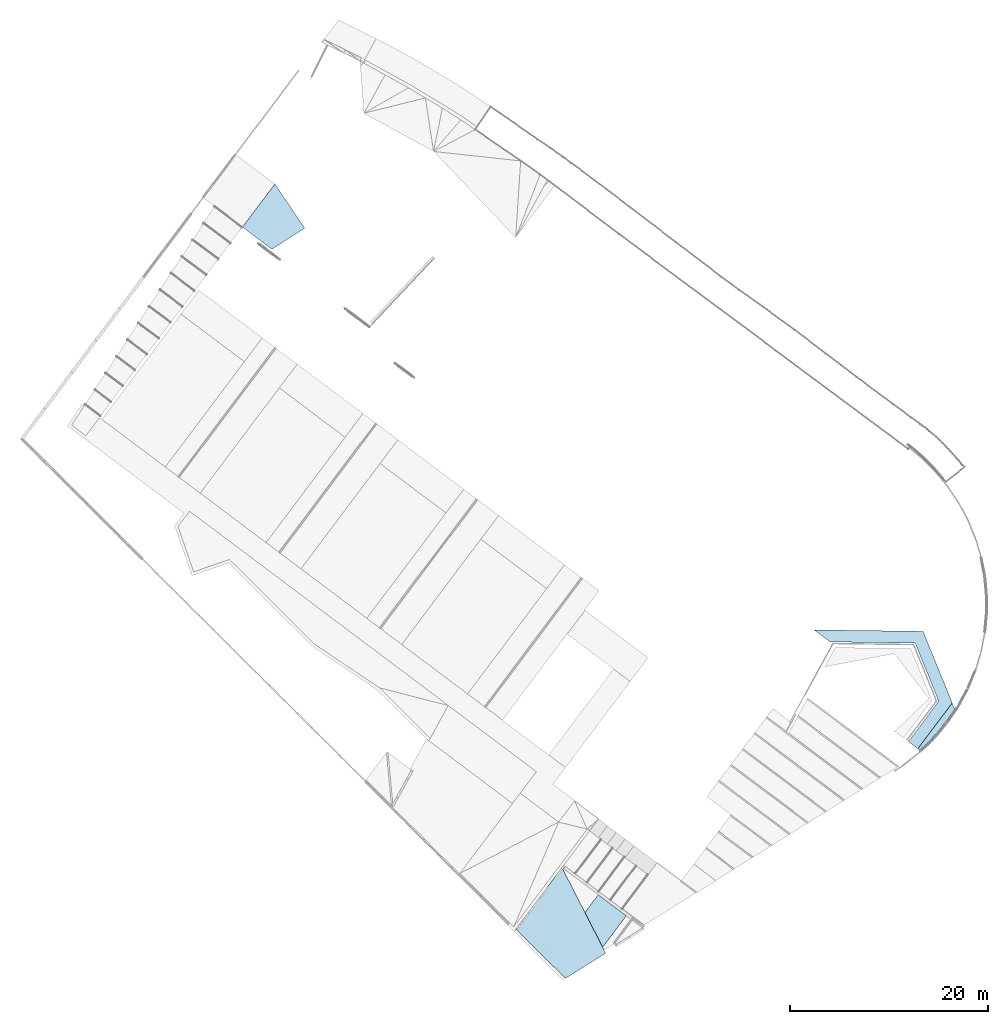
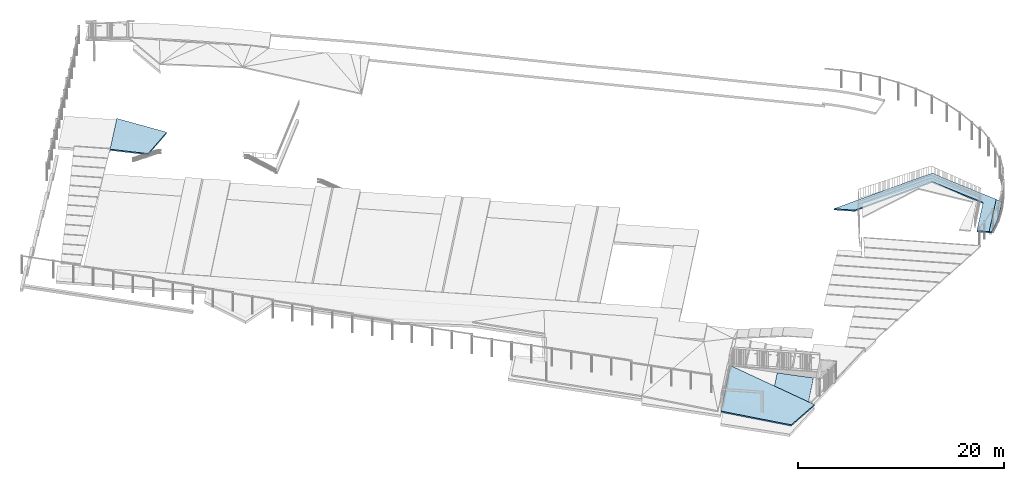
# One storey, part 30 of 33: 5 slabs.
"""IFC2X3 building model written with IfcOpenShell, lengths in metres."""

from ifc_helpers import new_model, entity, si_unit, converted_unit, derived_unit, direction, frame, origin, place, context, subcontext, project, spatial, faceted_brep, material, layer, layer_set, type_object, element, save


model = new_model("IFC2X3")

# Units and contexts
model_context = context("Model", 3, precision=1e-05, world=origin(), true_north=direction((6.123031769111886e-17, 1.0)))
body_context = subcontext(model_context, "Body", "Model", "MODEL_VIEW")
ifc_project = project(units=[si_unit("LENGTHUNIT", "METRE"), si_unit("AREAUNIT", "SQUARE_METRE"), si_unit("VOLUMEUNIT", "CUBIC_METRE"), converted_unit("PLANEANGLEUNIT", "DEGREE", entity("IfcRatioMeasure", 0.017453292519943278), si_unit("PLANEANGLEUNIT", "RADIAN"), dimensions=[0, 0, 0, 0, 0, 0, 0]), si_unit("MASSUNIT", "GRAM", prefix="KILO"), derived_unit("MASSDENSITYUNIT", [(si_unit("MASSUNIT", "GRAM", prefix="KILO"), 1), (si_unit("LENGTHUNIT", "METRE"), -3)]), derived_unit("IONCONCENTRATIONUNIT", [(si_unit("MASSUNIT", "GRAM", prefix="KILO"), 1), (si_unit("LENGTHUNIT", "METRE"), -3)]), derived_unit("MOMENTOFINERTIAUNIT", [(si_unit("LENGTHUNIT", "METRE"), 4)]), si_unit("TIMEUNIT", "SECOND"), si_unit("FREQUENCYUNIT", "HERTZ"), si_unit("THERMODYNAMICTEMPERATUREUNIT", "DEGREE_CELSIUS"), derived_unit("THERMALTRANSMITTANCEUNIT", [(si_unit("MASSUNIT", "GRAM", prefix="KILO"), 1), (si_unit("THERMODYNAMICTEMPERATUREUNIT", "KELVIN"), -1), (si_unit("TIMEUNIT", "SECOND"), -3)]), derived_unit("THERMALCONDUCTANCEUNIT", [(si_unit("MASSUNIT", "GRAM", prefix="KILO"), 1), (si_unit("THERMODYNAMICTEMPERATUREUNIT", "KELVIN"), -1), (si_unit("TIMEUNIT", "SECOND"), -3), (si_unit("LENGTHUNIT", "METRE"), 1)]), derived_unit("VOLUMETRICFLOWRATEUNIT", [(si_unit("LENGTHUNIT", "METRE"), 3), (si_unit("TIMEUNIT", "SECOND"), -1)]), derived_unit("MASSFLOWRATEUNIT", [(si_unit("MASSUNIT", "GRAM", prefix="KILO"), 1), (si_unit("TIMEUNIT", "SECOND"), -1)]), derived_unit("ROTATIONALFREQUENCYUNIT", [(si_unit("TIMEUNIT", "SECOND"), -1)]), si_unit("ELECTRICCURRENTUNIT", "AMPERE"), si_unit("ELECTRICVOLTAGEUNIT", "VOLT"), si_unit("POWERUNIT", "WATT"), si_unit("FORCEUNIT", "NEWTON", prefix="KILO"), si_unit("ILLUMINANCEUNIT", "LUX"), si_unit("LUMINOUSFLUXUNIT", "LUMEN"), si_unit("LUMINOUSINTENSITYUNIT", "CANDELA"), derived_unit("USERDEFINED", [(si_unit("MASSUNIT", "GRAM", prefix="KILO"), -1), (si_unit("LENGTHUNIT", "METRE"), -2), (si_unit("TIMEUNIT", "SECOND"), 3), (si_unit("LUMINOUSFLUXUNIT", "LUMEN"), 1)]), derived_unit("USERDEFINED", [(si_unit("MASSUNIT", "GRAM", prefix="KILO"), 1), (si_unit("TIMEUNIT", "SECOND"), -3), (si_unit("LENGTHUNIT", "METRE"), 3), (si_unit("ELECTRICCURRENTUNIT", "AMPERE"), -2)]), derived_unit("SOUNDPOWERUNIT", [(si_unit("MASSUNIT", "GRAM", prefix="KILO"), 1), (si_unit("TIMEUNIT", "SECOND"), -3), (si_unit("LENGTHUNIT", "METRE"), 2)]), derived_unit("SOUNDPRESSUREUNIT", [(si_unit("MASSUNIT", "GRAM", prefix="KILO"), 1), (si_unit("LENGTHUNIT", "METRE"), -1), (si_unit("TIMEUNIT", "SECOND"), -2)]), derived_unit("LINEARVELOCITYUNIT", [(si_unit("LENGTHUNIT", "METRE"), 1), (si_unit("TIMEUNIT", "SECOND"), -1)]), si_unit("PRESSUREUNIT", "PASCAL"), derived_unit("USERDEFINED", [(si_unit("MASSUNIT", "GRAM", prefix="KILO"), 1), (si_unit("LENGTHUNIT", "METRE"), -2), (si_unit("TIMEUNIT", "SECOND"), -2)]), derived_unit("LINEARFORCEUNIT", [(si_unit("MASSUNIT", "GRAM", prefix="KILO"), 1), (si_unit("TIMEUNIT", "SECOND"), -2)]), derived_unit("PLANARFORCEUNIT", [(si_unit("MASSUNIT", "GRAM", prefix="KILO"), 1), (si_unit("LENGTHUNIT", "METRE"), -1), (si_unit("TIMEUNIT", "SECOND"), -2)]), derived_unit("SPECIFICHEATCAPACITYUNIT", [(si_unit("THERMODYNAMICTEMPERATUREUNIT", "KELVIN"), -1), (si_unit("LENGTHUNIT", "METRE"), 2), (si_unit("TIMEUNIT", "SECOND"), -2)]), derived_unit("HEATINGVALUEUNIT", [(si_unit("LENGTHUNIT", "METRE"), 2), (si_unit("TIMEUNIT", "SECOND"), -2)]), derived_unit("VAPORPERMEABILITYUNIT", [(si_unit("LENGTHUNIT", "METRE"), -1), (si_unit("TIMEUNIT", "SECOND"), 1)]), derived_unit("DYNAMICVISCOSITYUNIT", [(si_unit("MASSUNIT", "GRAM", prefix="KILO"), 1), (si_unit("TIMEUNIT", "SECOND"), -1), (si_unit("LENGTHUNIT", "METRE"), -1)]), derived_unit("THERMALEXPANSIONCOEFFICIENTUNIT", [(si_unit("THERMODYNAMICTEMPERATUREUNIT", "KELVIN"), -1)]), derived_unit("MODULUSOFELASTICITYUNIT", [(si_unit("MASSUNIT", "GRAM", prefix="KILO"), 1), (si_unit("LENGTHUNIT", "METRE"), -1), (si_unit("TIMEUNIT", "SECOND"), -2)]), derived_unit("ISOTHERMALMOISTURECAPACITYUNIT", [(si_unit("LENGTHUNIT", "METRE"), 3), (si_unit("MASSUNIT", "GRAM", prefix="KILO"), -1)]), derived_unit("MOISTUREDIFFUSIVITYUNIT", [(si_unit("TIMEUNIT", "SECOND"), -1), (si_unit("LENGTHUNIT", "METRE"), 2)])], contexts=[model_context])

# Site, building, storey
site_placement = place(None, origin())
site = spatial("IfcSite", under=ifc_project, at=site_placement, Name="Superficie", CompositionType="ELEMENT")
building_placement = place(site_placement, frame((0.0, 0.0, 235.0), z_axis=(0.0, 0.0, 1.0), x_axis=(-0.7996477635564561, 0.6004693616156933, 0.0)))
building = spatial("IfcBuilding", under=site, at=building_placement, CompositionType="ELEMENT")
storey_placement = place(building_placement, origin())
storey = spatial("IfcBuildingStorey", under=building, at=storey_placement, Name="P0- Escola", CompositionType="ELEMENT", Elevation=0.0)

# Slabs
ifc_material_1 = material(Name="_Formigó- Solera- T1- STR")
ifc_layer_1 = layer(ifc_material_1, 0.14999999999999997)
ifc_layer_set_1 = layer_set([ifc_layer_1], Name="Suelo:STR- L- Formigó- Solera- T1- 15 cm")
slab_type_1 = type_object("IfcSlabType", Name="Suelo:STR- L- Formigó- Solera- T1- 15 cm", PredefinedType="FLOOR", material=ifc_layer_set_1)
slab_1_placement = place(storey_placement, origin())
element("IfcSlab", 1, at=slab_1_placement, inside=storey, type_object=slab_type_1, material=ifc_material_1, Name="Suelo:STR- L- Formigó- Solera- T1- 15 cm", ObjectType="Suelo:STR- L- Formigó- Solera- T1- 15 cm", PredefinedType="FLOOR", context=body_context, shape_type="Brep", body=[
    faceted_brep([(-4.649006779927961, -51.324540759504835, -5.12), (-4.649006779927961, -51.324540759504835, -5.27), (-7.60475961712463, -49.551897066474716, -5.139009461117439), (-10.064517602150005, -48.076714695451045, -5.029999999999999), (-10.064517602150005, -48.076714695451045, -4.88), (-7.604759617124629, -49.551897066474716, -4.98900946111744), (2.267833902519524, -46.27677412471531, -5.587371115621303), (2.267833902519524, -46.27677412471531, -5.737371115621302), (0.8117769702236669, -47.33937422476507, -5.638985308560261), (-1.1905864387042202, -48.800657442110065, -5.50368555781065), (-1.1905864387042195, -48.800657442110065, -5.3536855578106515), (0.8117769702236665, -47.33937422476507, -5.48898530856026), (3.5322092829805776, -46.27677350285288, -5.587290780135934), (4.303590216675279, -46.276773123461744, -5.587241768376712), (4.303590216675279, -46.276773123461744, -5.737241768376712), (3.5322092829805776, -46.27677350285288, -5.7372907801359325), (1.011989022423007, -48.67888047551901, -5.390524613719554), (-1.2513091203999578, -50.33056450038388, -5.255262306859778), (-3.5146072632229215, -51.98224852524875, -5.12), (-4.584096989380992, -52.76272859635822, -5.12), (-4.584096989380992, -52.76272859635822, -5.27), (-3.5146072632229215, -51.98224852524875, -5.27), (-1.2513091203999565, -50.33056450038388, -5.405262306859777), (1.0119890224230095, -48.67888047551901, -5.540524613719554), (-5.655068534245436, -52.120438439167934, -5.12), (-8.202914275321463, -50.59242749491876, -5.010990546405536), (-11.264517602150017, -48.75630244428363, -4.88), (-11.264517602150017, -48.75630244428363, -5.029999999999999), (-8.202914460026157, -50.592427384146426, -5.160990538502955), (-5.655068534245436, -52.120438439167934, -5.27), (-11.264517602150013, -45.86553992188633, -4.787), (-11.264517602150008, -42.97477739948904, -4.694), (-11.264517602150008, -42.97477739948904, -4.843999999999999), (-11.264517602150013, -45.86553992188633, -4.936999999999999), (-10.581401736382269, -42.97477739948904, -4.694), (-10.064517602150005, -42.97477739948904, -4.694), (-10.064517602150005, -42.97477739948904, -4.843999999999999), (-10.58140173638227, -42.97477739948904, -4.843999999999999), (-10.064517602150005, -46.85583030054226, -4.985490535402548), (-10.064517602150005, -45.41654618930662, -4.933018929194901), (-10.064517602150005, -45.41654618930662, -4.783018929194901), (-10.064517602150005, -46.85583030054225, -4.835490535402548), (-10.65367015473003, -46.34293480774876, -4.80925473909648), (-10.72810069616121, -44.65677639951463, -4.751113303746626), (-10.74763347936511, -48.46357901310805, -4.88), (-10.893212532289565, -48.54602379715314, -4.88), (-10.521907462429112, -48.33574515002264, -4.88), (-10.65367015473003, -46.342934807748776, -4.95925473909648), (-10.72810069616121, -44.65677639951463, -4.901113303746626), (-10.74763347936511, -48.46357901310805, -5.03), (-10.893212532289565, -48.546023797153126, -5.029999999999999), (-10.521907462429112, -48.335745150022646, -5.029999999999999), (-3.94444951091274, -51.73303245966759, -5.12), (1.305004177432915, -47.802088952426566, -5.455595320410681), (-0.8414638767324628, -49.32869201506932, -5.322920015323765), (-3.94444951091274, -51.73303245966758, -5.27), (-0.8414638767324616, -49.32869201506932, -5.472920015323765), (1.305004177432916, -47.802088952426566, -5.605595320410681), (-4.960303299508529, -51.570808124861, -5.12), (-5.152037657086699, -51.72248959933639, -5.12), (-5.152037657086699, -51.72248959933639, -5.27), (-4.960303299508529, -51.570808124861, -5.27), (-8.36420719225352, -49.47380203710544, -4.968837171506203), (-8.082525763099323, -50.01518745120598, -4.994143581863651), (-8.36420719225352, -49.47380203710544, -5.118837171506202), (-8.082525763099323, -50.01518745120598, -5.144143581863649)], [[[0, 1, 2, 3, 4, 5]], [[6, 7, 8, 9, 1, 0, 10, 11]], [[6, 12, 13, 14, 15, 7]], [[13, 16, 17, 18, 19, 20, 21, 22, 23, 14]], [[20, 19, 24, 25, 26, 27, 28, 29]], [[26, 30, 31, 32, 33, 27]], [[31, 34, 35, 36, 37, 32]], [[4, 3, 38, 39, 36, 35, 40, 41]], [[40, 42, 41]], [[43, 30, 42]], [[35, 34, 31, 43]], [[44, 41, 42]], [[42, 26, 45, 44]], [[43, 31, 30]], [[41, 44, 46, 4]], [[40, 35, 43]], [[42, 30, 26]], [[40, 43, 42]], [[38, 47, 39]], [[47, 33, 48]], [[48, 32, 37, 36]], [[47, 38, 49]], [[47, 49, 50, 27]], [[33, 32, 48]], [[38, 3, 51, 49]], [[48, 36, 39]], [[27, 33, 47]], [[47, 48, 39]], [[52, 18, 17]], [[16, 53, 54]], [[13, 12, 53]], [[54, 17, 16]], [[54, 0, 52]], [[10, 54, 53]], [[52, 17, 54]], [[12, 6, 11]], [[54, 10, 0]], [[16, 13, 53]], [[12, 11, 53]], [[10, 53, 11]], [[22, 21, 55]], [[56, 57, 23]], [[57, 15, 14]], [[23, 22, 56]], [[55, 1, 56]], [[57, 56, 9]], [[56, 22, 55]], [[8, 7, 15]], [[1, 9, 56]], [[57, 14, 23]], [[57, 8, 15]], [[8, 57, 9]], [[19, 18, 52, 0, 58, 59, 24]], [[20, 29, 60, 61, 1, 55, 21]], [[62, 4, 46]], [[58, 5, 62]], [[63, 46, 44, 45]], [[46, 63, 62]], [[63, 25, 59]], [[25, 63, 45]], [[25, 24, 59]], [[45, 26, 25]], [[59, 58, 63]], [[5, 58, 0]], [[58, 62, 63]], [[4, 62, 5]], [[51, 3, 64]], [[64, 2, 61]], [[65, 50, 49, 51]], [[64, 65, 51]], [[60, 28, 65]], [[50, 65, 28]], [[60, 29, 28]], [[28, 27, 50]], [[65, 61, 60]], [[1, 61, 2]], [[65, 64, 61]], [[2, 64, 3]]]),
])
slab_2_placement = place(storey_placement, origin())
element("IfcSlab", 2, at=slab_2_placement, inside=storey, type_object=slab_type_1, material=ifc_material_1, Name="Suelo:STR- L- Formigó- Solera- T1- 15 cm", ObjectType="Suelo:STR- L- Formigó- Solera- T1- 15 cm", PredefinedType="FLOOR", context=body_context, shape_type="Brep", body=[
    faceted_brep([(1.5165898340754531, -7.602364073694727, -1.6599999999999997), (2.0129096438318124, -6.318768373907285, -1.496116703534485), (2.509229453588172, -5.035172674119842, -1.3322334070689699), (2.7465124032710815, -4.421505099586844, -1.2538832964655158), (3.2428322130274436, -3.1379093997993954, -1.09), (3.242832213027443, -3.137909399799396, -1.2400000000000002), (2.746512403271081, -4.421505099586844, -1.4038832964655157), (2.509229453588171, -5.035172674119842, -1.4822334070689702), (2.0129096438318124, -6.318768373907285, -1.646116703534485), (1.5165898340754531, -7.602364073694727, -1.8099999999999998), (4.748470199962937, -3.3493763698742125, -1.0123710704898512), (5.741230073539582, -3.488809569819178, -0.9611855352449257), (6.733989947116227, -3.6282427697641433, -0.9099999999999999), (8.479568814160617, -3.873409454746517, -0.82), (9.472328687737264, -4.012842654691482, -0.7688144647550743), (10.22514768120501, -4.118576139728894, -0.73), (10.22514768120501, -4.118576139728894, -0.88), (9.472328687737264, -4.012842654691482, -0.9188144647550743), (8.479568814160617, -3.873409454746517, -0.97), (6.733989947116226, -3.6282427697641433, -1.0600000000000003), (5.741230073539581, -3.488809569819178, -1.1111855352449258), (4.748470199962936, -3.3493763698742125, -1.1623710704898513), (10.22514768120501, -6.055229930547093, -0.73), (10.22514768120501, -7.991883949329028, -0.73), (10.22514768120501, -8.960210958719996, -0.73), (10.22514768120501, -9.928537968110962, -0.73), (10.225147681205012, -11.865191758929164, -0.73), (10.225147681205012, -11.865191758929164, -0.88), (10.22514768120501, -9.928537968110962, -0.88), (10.22514768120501, -8.960210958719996, -0.88), (10.22514768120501, -7.991883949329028, -0.88), (10.22514768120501, -6.055229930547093, -0.88), (3.394467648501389, -8.52158280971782, -1.6094586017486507), (5.272345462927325, -9.440801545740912, -1.4089172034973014), (6.510546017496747, -10.046899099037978, -1.2766879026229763), (7.748746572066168, -10.65299665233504, -1.1444586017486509), (8.98694712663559, -11.259094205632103, -1.0122293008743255), (8.98694712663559, -11.259094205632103, -0.8622293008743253), (7.7487465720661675, -10.65299665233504, -0.9944586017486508), (6.510546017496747, -10.046899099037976, -1.1266879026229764), (5.2723454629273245, -9.440801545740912, -1.2589172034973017), (3.394467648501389, -8.52158280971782, -1.4594586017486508), (3.8576576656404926, -4.063448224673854, -1.127875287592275), (8.705593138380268, -8.979783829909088, -0.8713001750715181), (8.378904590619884, -7.554939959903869, -0.884321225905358), (6.735629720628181, -8.106825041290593, -1.0523660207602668), (6.441381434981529, -6.662291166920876, -1.0389825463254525), (5.237998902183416, -7.429494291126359, -1.1874346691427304), (2.843238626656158, -7.326400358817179, -1.4625900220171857), (3.8087371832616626, -6.62603028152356, -1.3047345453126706), (5.255676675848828, -5.958649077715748, -1.121513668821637), (6.537307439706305, -5.301062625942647, -0.9849769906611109), (5.245447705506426, -4.553023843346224, -1.0519976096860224), (7.844698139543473, -4.926019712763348, -0.8793508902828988), (7.8224450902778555, -6.268652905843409, -0.9095008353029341), (8.920843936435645, -5.220548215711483, -0.8126027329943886), (9.127248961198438, -6.705328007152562, -0.8125619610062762), (3.99880249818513, -5.116291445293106, -1.1914542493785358), (4.159401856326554, -7.797747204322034, -1.326617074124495), (3.8576576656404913, -4.063448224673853, -1.277875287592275), (6.735629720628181, -8.106825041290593, -1.2023660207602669), (8.378904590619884, -7.554939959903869, -1.034321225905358), (8.705593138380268, -8.979783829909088, -1.0213001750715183), (5.237998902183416, -7.429494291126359, -1.3374346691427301), (6.441381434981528, -6.662291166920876, -1.1889825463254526), (2.843238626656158, -7.326400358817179, -1.6125900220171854), (3.8087371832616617, -6.62603028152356, -1.4547345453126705), (5.245447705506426, -4.553023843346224, -1.2019976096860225), (6.5373074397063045, -5.301062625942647, -1.134976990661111), (5.255676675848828, -5.958649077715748, -1.271513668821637), (8.920843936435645, -5.220548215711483, -0.9626027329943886), (7.8224450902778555, -6.268652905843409, -1.059500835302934), (7.844698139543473, -4.926019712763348, -1.029350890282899), (9.127248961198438, -6.705328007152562, -0.9625619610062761), (3.998802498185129, -5.116291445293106, -1.341454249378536), (4.159401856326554, -7.797747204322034, -1.4766170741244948)], [[[0, 1, 2, 3, 4, 5, 6, 7, 8, 9]], [[4, 10, 11, 12, 13, 14, 15, 16, 17, 18, 19, 20, 21, 5]], [[15, 22, 23, 24, 25, 26, 27, 28, 29, 30, 31, 16]], [[0, 9, 32, 33, 34, 35, 36, 27, 26, 37, 38, 39, 40, 41]], [[4, 3, 42]], [[43, 44, 45]], [[46, 47, 45]], [[48, 0, 41]], [[49, 2, 1]], [[50, 51, 52]], [[42, 52, 10]], [[45, 40, 39, 38]], [[38, 43, 45]], [[53, 54, 55]], [[56, 55, 54]], [[47, 50, 49]], [[43, 25, 24]], [[54, 51, 46]], [[37, 26, 25]], [[24, 44, 43]], [[52, 57, 50]], [[3, 2, 57]], [[42, 3, 57]], [[57, 2, 49]], [[49, 50, 57]], [[41, 58, 48]], [[58, 40, 47]], [[50, 46, 51]], [[52, 12, 11, 10]], [[56, 23, 22]], [[58, 47, 49]], [[51, 53, 12]], [[37, 25, 43]], [[14, 55, 22]], [[22, 15, 14]], [[44, 56, 54]], [[55, 14, 13]], [[55, 13, 53]], [[22, 55, 56]], [[12, 53, 13]], [[51, 54, 53]], [[47, 46, 50]], [[46, 45, 44]], [[44, 54, 46]], [[12, 52, 51]], [[52, 42, 57]], [[4, 42, 10]], [[48, 49, 1]], [[40, 58, 41]], [[49, 48, 58]], [[0, 48, 1]], [[40, 45, 47]], [[43, 38, 37]], [[23, 56, 44]], [[24, 23, 44]], [[59, 6, 5]], [[60, 61, 62]], [[60, 63, 64]], [[32, 9, 65]], [[8, 7, 66]], [[67, 68, 69]], [[21, 67, 59]], [[34, 33, 60, 35]], [[60, 62, 35]], [[70, 71, 72]], [[71, 70, 73]], [[66, 69, 63]], [[29, 28, 62]], [[64, 68, 71]], [[28, 27, 36]], [[62, 61, 29]], [[69, 74, 67]], [[74, 7, 6]], [[74, 6, 59]], [[66, 7, 74]], [[74, 69, 66]], [[65, 75, 32]], [[63, 33, 75]], [[68, 64, 69]], [[20, 19, 67, 21]], [[31, 30, 73]], [[66, 63, 75]], [[19, 72, 68]], [[62, 28, 36]], [[31, 70, 17]], [[17, 16, 31]], [[71, 73, 61]], [[18, 17, 70]], [[72, 18, 70]], [[73, 70, 31]], [[18, 72, 19]], [[72, 71, 68]], [[69, 64, 63]], [[61, 60, 64]], [[64, 71, 61]], [[68, 67, 19]], [[74, 59, 67]], [[21, 59, 5]], [[8, 66, 65]], [[32, 75, 33]], [[75, 65, 66]], [[8, 65, 9]], [[63, 60, 33]], [[36, 35, 62]], [[61, 73, 30]], [[61, 30, 29]]]),
])
slab_3_placement = place(storey_placement, origin())
element("IfcSlab", 3, at=slab_3_placement, inside=storey, type_object=slab_type_1, material=ifc_material_1, Name="Suelo:STR- L- Formigó- Solera- T1- 15 cm", ObjectType="Suelo:STR- L- Formigó- Solera- T1- 15 cm", PredefinedType="FLOOR", context=body_context, shape_type="Brep", body=[
    faceted_brep([(-11.823405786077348, -48.42112231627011, -4.88), (-11.82340578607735, -48.42112231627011, -5.029999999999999), (-11.616699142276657, -48.54508979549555, -5.029999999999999), (-11.264517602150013, -48.75630244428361, -5.029999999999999), (-11.264517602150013, -48.75630244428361, -4.88), (-11.616699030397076, -48.54508986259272, -4.88), (-11.488232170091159, -42.974777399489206, -4.694), (-11.405490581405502, -42.974777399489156, -4.694), (-11.264517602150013, -42.97477739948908, -4.694), (-11.264517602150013, -42.97477739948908, -4.843999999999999), (-11.405490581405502, -42.974777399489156, -4.843999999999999), (-11.488232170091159, -42.974777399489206, -4.843999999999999), (-11.264517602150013, -48.033611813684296, -5.0067499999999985), (-11.264517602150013, -47.310921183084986, -4.9834999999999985), (-11.264517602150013, -46.58823055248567, -4.9602499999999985), (-11.264517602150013, -45.865539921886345, -4.9369999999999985), (-11.264517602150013, -45.14284929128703, -4.9137499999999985), (-11.264517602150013, -44.42015866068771, -4.890499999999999), (-11.264517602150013, -43.697468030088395, -4.867249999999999), (-11.264517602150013, -43.697468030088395, -4.71725), (-11.264517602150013, -44.42015866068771, -4.7405), (-11.264517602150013, -45.14284929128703, -4.763749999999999), (-11.264517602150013, -45.86553992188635, -4.787), (-11.264517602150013, -46.588230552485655, -4.81025), (-11.264517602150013, -47.310921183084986, -4.833499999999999), (-11.264517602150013, -48.033611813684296, -4.856749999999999), (-11.85581869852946, -47.92444629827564, -4.863090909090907), (-11.875640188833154, -47.42715574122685, -4.846181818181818), (-11.875640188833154, -47.42715574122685, -4.996181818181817), (-11.85581869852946, -47.92444629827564, -5.013090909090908), (-11.877479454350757, -46.43196619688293, -4.812363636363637), (-11.859500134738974, -45.934685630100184, -4.795454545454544), (-11.859500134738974, -45.934685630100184, -4.945454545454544), (-11.877479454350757, -46.43196619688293, -4.962363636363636), (-11.882861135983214, -46.92955926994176, -4.829272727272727), (-11.882861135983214, -46.92955926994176, -4.979272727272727), (-11.828935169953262, -45.438025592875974, -4.778545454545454), (-11.828935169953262, -45.438025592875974, -4.9285454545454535), (-11.785803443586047, -44.94229293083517, -4.761636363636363), (-11.785803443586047, -44.94229293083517, -4.9116363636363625), (-11.7301308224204, -44.4477948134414, -4.744727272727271), (-11.7301308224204, -44.4477948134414, -4.8947272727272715), (-11.581301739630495, -43.46373109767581, -4.860909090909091), (-11.66195025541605, -43.954838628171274, -4.877818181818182), (-11.66195025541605, -43.954838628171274, -4.727818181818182), (-11.581301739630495, -43.46373109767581, -4.710909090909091), (-11.45087754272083, -43.73504022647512, -4.719363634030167), (-11.577726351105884, -47.81615762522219, -4.854636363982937), (-11.565860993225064, -46.80151158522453, -4.820818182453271), (-11.567313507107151, -45.7721489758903, -4.7870000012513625), (-11.50619280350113, -44.756018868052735, -4.753181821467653), (-11.45087754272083, -43.73504022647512, -4.869363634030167), (-11.577726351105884, -47.81615762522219, -5.004636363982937), (-11.567313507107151, -45.7721489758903, -4.937000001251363), (-11.565860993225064, -46.80151158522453, -4.970818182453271), (-11.50619280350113, -44.756018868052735, -4.903181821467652)], [[[0, 1, 2, 3, 4, 5]], [[6, 7, 8, 9, 10, 11]], [[4, 3, 12, 13, 14, 15, 16, 17, 18, 9, 8, 19, 20, 21, 22, 23, 24, 25]], [[26, 27, 28, 29]], [[0, 26, 29, 1]], [[30, 31, 32, 33]], [[34, 30, 33, 35]], [[27, 34, 35, 28]], [[31, 36, 37, 32]], [[38, 39, 37, 36]], [[40, 41, 39, 38]], [[42, 43, 44, 45]], [[40, 44, 43, 41]], [[11, 42, 45, 6]], [[8, 7, 46]], [[4, 25, 24, 47]], [[48, 49, 30]], [[47, 27, 26]], [[40, 50, 46]], [[7, 45, 46]], [[4, 47, 5]], [[48, 30, 34]], [[49, 38, 36]], [[49, 21, 50]], [[40, 38, 50]], [[22, 21, 49, 23]], [[47, 48, 34]], [[50, 20, 46]], [[26, 0, 5]], [[49, 50, 38]], [[45, 44, 46]], [[47, 24, 48]], [[49, 36, 31]], [[21, 20, 50]], [[24, 23, 48]], [[19, 8, 46, 20]], [[7, 6, 45]], [[47, 34, 27]], [[49, 31, 30]], [[23, 49, 48]], [[44, 40, 46]], [[5, 47, 26]], [[51, 10, 9]], [[52, 13, 12, 3]], [[33, 53, 54]], [[29, 28, 52]], [[51, 55, 41]], [[51, 42, 10]], [[2, 52, 3]], [[35, 33, 54]], [[37, 39, 53]], [[55, 16, 53]], [[55, 39, 41]], [[14, 53, 16, 15]], [[35, 54, 52]], [[51, 17, 55]], [[2, 1, 29]], [[39, 55, 53]], [[51, 43, 42]], [[54, 13, 52]], [[32, 37, 53]], [[55, 17, 16]], [[54, 14, 13]], [[17, 51, 9, 18]], [[42, 11, 10]], [[28, 35, 52]], [[33, 32, 53]], [[54, 53, 14]], [[51, 41, 43]], [[29, 52, 2]]]),
])
ifc_material_2 = material(Name="_Saulo T1- PAV")
ifc_layer_2 = layer(ifc_material_2, 0.14999999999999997)
ifc_layer_set_2 = layer_set([ifc_layer_2], Name="Suelo:PAV- Saulo- 15 cm- T1")
slab_type_2 = type_object("IfcSlabType", Name="Suelo:PAV- Saulo- 15 cm- T1", PredefinedType="FLOOR", material=ifc_layer_set_2)
slab_4_placement = place(storey_placement, origin())
element("IfcSlab", 4, at=slab_4_placement, inside=storey, type_object=slab_type_2, material=ifc_material_2, Name="Suelo:PAV- Saulo- 15 cm- T1", ObjectType="Suelo:PAV- Saulo- 15 cm- T1", PredefinedType="FLOOR", context=body_context, shape_type="Brep", body=[
    faceted_brep([(2.12495005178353, -7.900155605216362, -1.594330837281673), (2.12495005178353, -7.900155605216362, -1.7443308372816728), (2.124950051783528, -9.711521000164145, -1.7094602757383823), (2.124950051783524, -11.86519175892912, -1.668), (2.124950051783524, -11.86519175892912, -1.5179999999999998), (2.124950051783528, -9.711521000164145, -1.5594602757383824), (3.893548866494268, -8.765882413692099, -1.4057542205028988), (4.594767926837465, -9.109128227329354, -1.3309868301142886), (5.662147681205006, -9.631609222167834, -1.2171776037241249), (5.662147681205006, -9.631609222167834, -1.367177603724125), (4.594767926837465, -9.109128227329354, -1.4809868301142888), (3.8935488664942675, -8.765882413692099, -1.5557542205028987), (3.1923298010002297, -11.865191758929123, -1.573549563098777), (4.259709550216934, -11.865191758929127, -1.4790991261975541), (5.662147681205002, -11.86519175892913, -1.3549999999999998), (5.662147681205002, -11.86519175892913, -1.2049999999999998), (4.259709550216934, -11.865191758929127, -1.329099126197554), (3.1923298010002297, -11.865191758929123, -1.4235495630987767), (5.662147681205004, -10.651987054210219, -1.2116144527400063), (5.662147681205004, -10.651987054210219, -1.361614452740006), (4.703410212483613, -10.66574897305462, -1.3029572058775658), (3.7260198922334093, -10.380296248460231, -1.3983984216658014), (4.703410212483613, -10.66574897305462, -1.4529572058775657), (3.7260198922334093, -10.380296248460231, -1.5483984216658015)], [[[0, 1, 2, 3, 4, 5]], [[0, 6, 7, 8, 9, 10, 11, 1]], [[4, 3, 12, 13, 14, 15, 16, 17]], [[8, 18, 15, 14, 19, 9]], [[20, 7, 6]], [[5, 4, 17]], [[18, 8, 7]], [[20, 6, 21]], [[5, 17, 21]], [[21, 0, 5]], [[16, 21, 17]], [[18, 20, 15]], [[21, 6, 0]], [[20, 21, 16]], [[15, 20, 16]], [[7, 20, 18]], [[11, 10, 22]], [[12, 3, 2]], [[10, 9, 19]], [[23, 11, 22]], [[23, 12, 2]], [[2, 1, 23]], [[12, 23, 13]], [[14, 22, 19]], [[1, 11, 23]], [[13, 23, 22]], [[13, 22, 14]], [[19, 22, 10]]]),
])
slab_5_placement = place(storey_placement, origin())
element("IfcSlab", 5, at=slab_5_placement, inside=storey, type_object=slab_type_2, material=ifc_material_2, Name="Suelo:PAV- Saulo- 15 cm- T1", ObjectType="Suelo:PAV- Saulo- 15 cm- T1", PredefinedType="FLOOR", context=body_context, shape_type="Brep", body=[
    faceted_brep([(71.02679231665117, -44.14052213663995, -3.1948964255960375), (71.02679231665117, -44.14052213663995, -3.3448964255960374), (70.34209026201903, -45.98875285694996, -3.3016482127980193), (69.6573882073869, -47.836983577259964, -3.2584), (69.6573882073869, -47.836983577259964, -3.1084000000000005), (70.34209026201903, -45.98875285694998, -3.151648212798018), (72.24873364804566, -44.14052213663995, -3.1252621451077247), (73.47067497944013, -44.14052213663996, -3.0556278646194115), (74.1341770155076, -44.14052213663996, -3.0178171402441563), (74.74514768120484, -44.14052213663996, -2.983), (74.74514768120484, -44.14052213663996, -3.1330000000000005), (74.1341770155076, -44.14052213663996, -3.167817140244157), (73.47067497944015, -44.14052213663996, -3.2056278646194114), (72.24873364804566, -44.14052213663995, -3.275262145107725), (74.74514768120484, -49.580343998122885, -3.118999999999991), (74.74514768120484, -49.580343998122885, -3.2689999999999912), (74.74514768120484, -48.201175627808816, -3.234519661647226), (74.74514768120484, -46.82200725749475, -3.2000393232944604), (74.74514768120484, -46.82200725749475, -3.0500393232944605), (74.74514768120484, -48.201175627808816, -3.084519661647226), (73.07318710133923, -49.00743367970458, -3.1155165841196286), (72.20126794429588, -48.70866378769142, -3.1136999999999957), (71.32934878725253, -48.409893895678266, -3.1118834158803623), (71.32934878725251, -48.409893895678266, -3.2618834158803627), (72.20126794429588, -48.70866378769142, -3.2636999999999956), (73.07318710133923, -49.00743367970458, -3.265516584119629), (72.9194901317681, -46.51107566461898, -3.092809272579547), (73.70128965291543, -45.596398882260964, -3.059907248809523), (73.01473478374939, -45.24491486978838, -3.0833268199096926), (73.80562913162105, -47.270879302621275, -3.082198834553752), (71.99808159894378, -47.22866022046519, -3.1111826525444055), (71.886447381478, -45.841081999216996, -3.119825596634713), (70.87023853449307, -47.062291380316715, -3.1229683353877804), (72.91949013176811, -46.51107566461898, -3.2428092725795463), (73.01473478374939, -45.24491486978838, -3.233326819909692), (73.70128965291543, -45.596398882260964, -3.2099072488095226), (73.80562913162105, -47.270879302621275, -3.2321988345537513), (71.886447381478, -45.841081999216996, -3.2698255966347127), (71.99808159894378, -47.22866022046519, -3.261182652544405), (70.87023853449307, -47.06229138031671, -3.2729683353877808)], [[[0, 1, 2, 3, 4, 5]], [[0, 6, 7, 8, 9, 10, 11, 12, 13, 1]], [[14, 15, 16, 17, 10, 9, 18, 19]], [[14, 20, 21, 22, 4, 3, 23, 24, 25, 15]], [[20, 26, 21]], [[27, 7, 28]], [[9, 8, 7, 27]], [[27, 29, 18]], [[30, 26, 31]], [[29, 14, 19, 18]], [[4, 22, 32]], [[0, 5, 31]], [[26, 30, 21]], [[28, 31, 26]], [[27, 28, 26]], [[29, 27, 26]], [[9, 27, 18]], [[26, 20, 29]], [[7, 6, 28]], [[31, 28, 6]], [[0, 31, 6]], [[30, 32, 22]], [[32, 31, 5]], [[21, 30, 22]], [[31, 32, 30]], [[4, 32, 5]], [[14, 29, 20]], [[24, 33, 25]], [[34, 12, 35]], [[35, 12, 11, 10]], [[17, 36, 35]], [[37, 33, 38]], [[16, 15, 36, 17]], [[39, 23, 3]], [[37, 2, 1]], [[24, 38, 33]], [[33, 37, 34]], [[33, 34, 35]], [[33, 35, 36]], [[17, 35, 10]], [[36, 25, 33]], [[34, 13, 12]], [[13, 34, 37]], [[13, 37, 1]], [[23, 39, 38]], [[2, 37, 39]], [[23, 38, 24]], [[38, 39, 37]], [[2, 39, 3]], [[25, 36, 15]]]),
])

save(model, "model.ifc")
